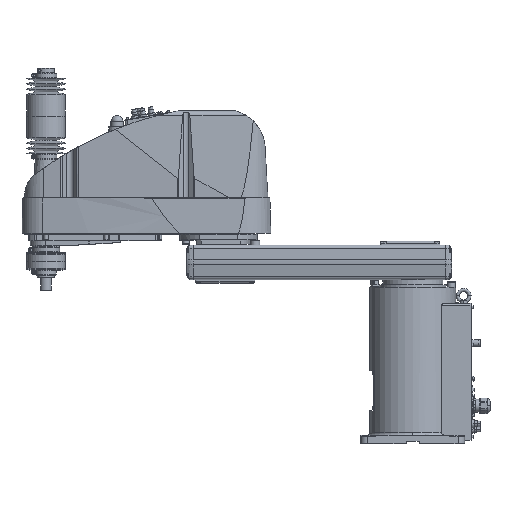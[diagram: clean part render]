
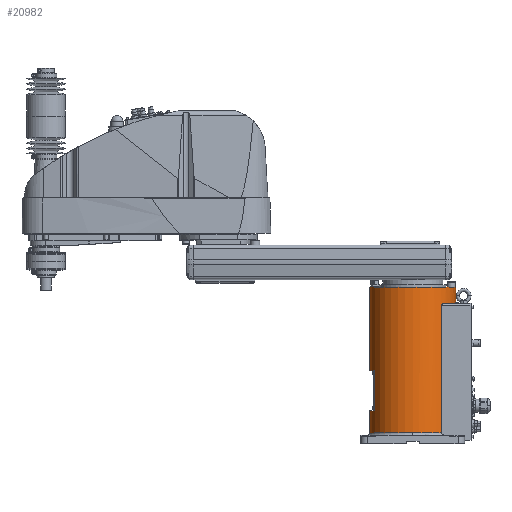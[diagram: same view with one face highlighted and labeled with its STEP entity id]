
A CAD part, top view. The second image highlights one B-rep face of the part: STEP entity #20982.
In plain terms, the highlighted cylindrical face has radius 100 mm (diameter 200 mm), a partial arc.
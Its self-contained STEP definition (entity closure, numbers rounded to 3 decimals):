
#11338 = EDGE_CURVE( '', #26400, #29540, #31779, .T. );
#11548 = VERTEX_POINT( '', #32009 );
#12220 = EDGE_CURVE( '', #29540, #13488, #32754, .T. );
#12364 = EDGE_CURVE( '', #27076, #26400, #32914, .T. );
#12542 = EDGE_CURVE( '', #13210, #27076, #33111, .T. );
#12630 = VERTEX_POINT( '', #33209 );
#12728 = VERTEX_POINT( '', #33314 );
#12946 = VERTEX_POINT( '', #33553 );
#13210 = VERTEX_POINT( '', #33854 );
#13264 = EDGE_CURVE( '', #23158, #18328, #33913, .T. );
#13460 = VERTEX_POINT( '', #34124 );
#13488 = VERTEX_POINT( '', #34154 );
#13602 = EDGE_CURVE( '', #12946, #11548, #34285, .T. );
#14238 = VERTEX_POINT( '', #34981 );
#15634 = VERTEX_POINT( '', #36537 );
#15954 = EDGE_CURVE( '', #14238, #12630, #36901, .T. );
#16606 = EDGE_CURVE( '', #12946, #18328, #37630, .T. );
#17302 = EDGE_CURVE( '', #11548, #15634, #38400, .T. );
#18328 = VERTEX_POINT( '', #39561 );
#18624 = EDGE_CURVE( '', #12728, #23158, #39903, .T. );
#20982 = ADVANCED_FACE( '', ( #42540 ), #42541, .T. );
#22544 = EDGE_CURVE( '', #12630, #28152, #44267, .T. );
#23158 = VERTEX_POINT( '', #44955 );
#23674 = EDGE_CURVE( '', #13488, #14238, #45525, .T. );
#24406 = EDGE_CURVE( '', #13460, #28028, #46331, .T. );
#24762 = EDGE_CURVE( '', #15634, #13210, #46733, .T. );
#26400 = VERTEX_POINT( '', #48564 );
#26690 = EDGE_CURVE( '', #28152, #13460, #48880, .T. );
#27076 = VERTEX_POINT( '', #49308 );
#28028 = VERTEX_POINT( '', #50368 );
#28152 = VERTEX_POINT( '', #50505 );
#29540 = VERTEX_POINT( '', #52073 );
#30470 = EDGE_CURVE( '', #28028, #12728, #53106, .T. );
#31779 = CIRCLE( '', #54906, 100. );
#32009 = CARTESIAN_POINT( '', ( -100., 169.7, 0. ) );
#32754 = CIRCLE( '', #56277, 100. );
#32914 = LINE( '', #56510, #56511 );
#33111 = CIRCLE( '', #56775, 100. );
#33209 = CARTESIAN_POINT( '', ( 70.42, 324., 71. ) );
#33314 = CARTESIAN_POINT( '', ( 89.303, 324., 45. ) );
#33553 = CARTESIAN_POINT( '', ( -100., 363., 0. ) );
#33854 = CARTESIAN_POINT( '', ( -88., 76.7, 47.497 ) );
#33913 = LINE( '', #57980, #57981 );
#34124 = CARTESIAN_POINT( '', ( 75.993, 326., 65. ) );
#34154 = CARTESIAN_POINT( '', ( 66.144, 25., 75. ) );
#34285 = LINE( '', #58528, #58529 );
#34981 = CARTESIAN_POINT( '', ( 66.144, 320., 75. ) );
#36537 = CARTESIAN_POINT( '', ( -88., 169.7, 47.497 ) );
#36901 = B_SPLINE_CURVE_WITH_KNOTS( '', 3, ( #62557, #62558, #62559, #62560, #62561, #62562, #62563, #62564, #62565, #62566, #62567, #62568, #62569, #62570, #62571, #62572, #62573, #62574 ), .UNSPECIFIED., .F., .F., ( 4, 2, 2, 2, 2, 2, 2, 2, 4 ), ( 14.722, 15.472, 16.222, 16.971, 17.721, 18.842, 19.962, 21.082, 22.202 ), .UNSPECIFIED. );
#37630 = CIRCLE( '', #63614, 100. );
#38400 = CIRCLE( '', #64710, 100. );
#39561 = CARTESIAN_POINT( '', ( 100., 363., 0. ) );
#39903 = CIRCLE( '', #66861, 100. );
#42540 = FACE_OUTER_BOUND( '', #70860, .T. );
#42541 = CYLINDRICAL_SURFACE( '', #70861, 100. );
#44267 = CIRCLE( '', #73418, 100. );
#44955 = CARTESIAN_POINT( '', ( 100., 324., 0. ) );
#45525 = LINE( '', #75280, #75281 );
#46331 = CIRCLE( '', #76475, 100. );
#46733 = LINE( '', #77043, #77044 );
#48564 = CARTESIAN_POINT( '', ( -100., 25., 0. ) );
#48880 = LINE( '', #80249, #80250 );
#49308 = CARTESIAN_POINT( '', ( -100., 76.7, 0. ) );
#50368 = CARTESIAN_POINT( '', ( 89.303, 326., 45. ) );
#50505 = CARTESIAN_POINT( '', ( 75.993, 324., 65. ) );
#52073 = CARTESIAN_POINT( '', ( 0., 25., 100. ) );
#53106 = LINE( '', #86489, #86490 );
#54906 = AXIS2_PLACEMENT_3D( '', #88058, #88059, #88060 );
#56277 = AXIS2_PLACEMENT_3D( '', #89126, #89127, #89128 );
#56510 = CARTESIAN_POINT( '', ( -100., 194., 0. ) );
#56511 = VECTOR( '', #89325, 1. );
#56775 = AXIS2_PLACEMENT_3D( '', #89544, #89545, #89546 );
#57980 = CARTESIAN_POINT( '', ( 100., 194., 0. ) );
#57981 = VECTOR( '', #90482, 1. );
#58528 = CARTESIAN_POINT( '', ( -100., 194., 0. ) );
#58529 = VECTOR( '', #90907, 1. );
#62557 = CARTESIAN_POINT( '', ( 66.144, 320., 75. ) );
#62558 = CARTESIAN_POINT( '', ( 66.144, 320.25, 75. ) );
#62559 = CARTESIAN_POINT( '', ( 66.171, 320.503, 74.976 ) );
#62560 = CARTESIAN_POINT( '', ( 66.277, 320.995, 74.882 ) );
#62561 = CARTESIAN_POINT( '', ( 66.356, 321.234, 74.812 ) );
#62562 = CARTESIAN_POINT( '', ( 66.555, 321.685, 74.636 ) );
#62563 = CARTESIAN_POINT( '', ( 66.674, 321.897, 74.529 ) );
#62564 = CARTESIAN_POINT( '', ( 66.938, 322.284, 74.292 ) );
#62565 = CARTESIAN_POINT( '', ( 67.082, 322.458, 74.162 ) );
#62566 = CARTESIAN_POINT( '', ( 67.446, 322.842, 73.831 ) );
#62567 = CARTESIAN_POINT( '', ( 67.688, 323.046, 73.61 ) );
#62568 = CARTESIAN_POINT( '', ( 68.203, 323.396, 73.134 ) );
#62569 = CARTESIAN_POINT( '', ( 68.475, 323.543, 72.879 ) );
#62570 = CARTESIAN_POINT( '', ( 69.031, 323.776, 72.352 ) );
#62571 = CARTESIAN_POINT( '', ( 69.316, 323.861, 72.08 ) );
#62572 = CARTESIAN_POINT( '', ( 69.877, 323.974, 71.535 ) );
#62573 = CARTESIAN_POINT( '', ( 70.155, 324., 71.263 ) );
#62574 = CARTESIAN_POINT( '', ( 70.42, 324., 71. ) );
#63614 = AXIS2_PLACEMENT_3D( '', #94718, #94719, #94720 );
#64710 = AXIS2_PLACEMENT_3D( '', #95550, #95551, #95552 );
#66861 = AXIS2_PLACEMENT_3D( '', #97442, #97443, #97444 );
#70860 = EDGE_LOOP( '', ( #100543, #100544, #100545, #100546, #100547, #100548, #100549, #100550, #100551, #100552, #100553, #100554, #100555, #100556, #100557, #100558 ) );
#70861 = AXIS2_PLACEMENT_3D( '', #100559, #100560, #100561 );
#73418 = AXIS2_PLACEMENT_3D( '', #102483, #102484, #102485 );
#75280 = CARTESIAN_POINT( '', ( 66.144, 172.5, 75. ) );
#75281 = VECTOR( '', #103938, 1. );
#76475 = AXIS2_PLACEMENT_3D( '', #104780, #104781, #104782 );
#77043 = CARTESIAN_POINT( '', ( -88., 123.2, 47.497 ) );
#77044 = VECTOR( '', #105253, 1. );
#80249 = CARTESIAN_POINT( '', ( 75.993, 325., 65. ) );
#80250 = VECTOR( '', #107707, 1. );
#86489 = CARTESIAN_POINT( '', ( 89.303, 325., 45. ) );
#86490 = VECTOR( '', #112557, 1. );
#88058 = CARTESIAN_POINT( '', ( 0., 25., 0. ) );
#88059 = DIRECTION( '', ( 0., 1., 0. ) );
#88060 = DIRECTION( '', ( 1., 0., 0. ) );
#89126 = CARTESIAN_POINT( '', ( 0., 25., 0. ) );
#89127 = DIRECTION( '', ( 0., 1., 0. ) );
#89128 = DIRECTION( '', ( 1., 0., 0. ) );
#89325 = DIRECTION( '', ( 0., -1., 0. ) );
#89544 = CARTESIAN_POINT( '', ( 0., 76.7, 0. ) );
#89545 = DIRECTION( '', ( 0., -1., 0. ) );
#89546 = DIRECTION( '', ( 1., 0., 0. ) );
#90482 = DIRECTION( '', ( 0., 1., 0. ) );
#90907 = DIRECTION( '', ( 0., -1., 0. ) );
#94718 = CARTESIAN_POINT( '', ( 0., 363., 0. ) );
#94719 = DIRECTION( '', ( 0., 1., 0. ) );
#94720 = DIRECTION( '', ( 1., 0., 0. ) );
#95550 = CARTESIAN_POINT( '', ( 0., 169.7, 0. ) );
#95551 = DIRECTION( '', ( 0., 1., 0. ) );
#95552 = DIRECTION( '', ( 1., 0., 0. ) );
#97442 = CARTESIAN_POINT( '', ( 0., 324., 0. ) );
#97443 = DIRECTION( '', ( 0., 1., 0. ) );
#97444 = DIRECTION( '', ( 1., 0., 0. ) );
#100543 = ORIENTED_EDGE( '', *, *, #13264, .T. );
#100544 = ORIENTED_EDGE( '', *, *, #16606, .F. );
#100545 = ORIENTED_EDGE( '', *, *, #13602, .T. );
#100546 = ORIENTED_EDGE( '', *, *, #17302, .T. );
#100547 = ORIENTED_EDGE( '', *, *, #24762, .T. );
#100548 = ORIENTED_EDGE( '', *, *, #12542, .T. );
#100549 = ORIENTED_EDGE( '', *, *, #12364, .T. );
#100550 = ORIENTED_EDGE( '', *, *, #11338, .T. );
#100551 = ORIENTED_EDGE( '', *, *, #12220, .T. );
#100552 = ORIENTED_EDGE( '', *, *, #23674, .T. );
#100553 = ORIENTED_EDGE( '', *, *, #15954, .T. );
#100554 = ORIENTED_EDGE( '', *, *, #22544, .T. );
#100555 = ORIENTED_EDGE( '', *, *, #26690, .T. );
#100556 = ORIENTED_EDGE( '', *, *, #24406, .T. );
#100557 = ORIENTED_EDGE( '', *, *, #30470, .T. );
#100558 = ORIENTED_EDGE( '', *, *, #18624, .T. );
#100559 = CARTESIAN_POINT( '', ( 0., 194., 0. ) );
#100560 = DIRECTION( '', ( 0., -1., 0. ) );
#100561 = DIRECTION( '', ( 1., 0., 0. ) );
#102483 = CARTESIAN_POINT( '', ( 0., 324., 0. ) );
#102484 = DIRECTION( '', ( 0., 1., 0. ) );
#102485 = DIRECTION( '', ( 1., 0., 0. ) );
#103938 = DIRECTION( '', ( 0., 1., 0. ) );
#104780 = CARTESIAN_POINT( '', ( 0., 326., 0. ) );
#104781 = DIRECTION( '', ( 0., 1., 0. ) );
#104782 = DIRECTION( '', ( 1., 0., 0. ) );
#105253 = DIRECTION( '', ( 0., -1., 0. ) );
#107707 = DIRECTION( '', ( 0., 1., 0. ) );
#112557 = DIRECTION( '', ( 0., -1., 0. ) );
